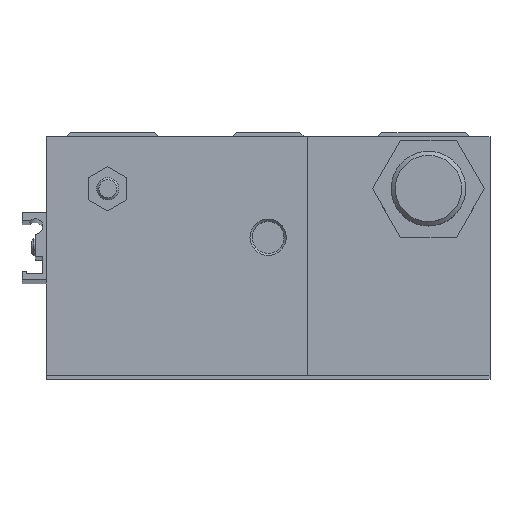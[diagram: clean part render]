
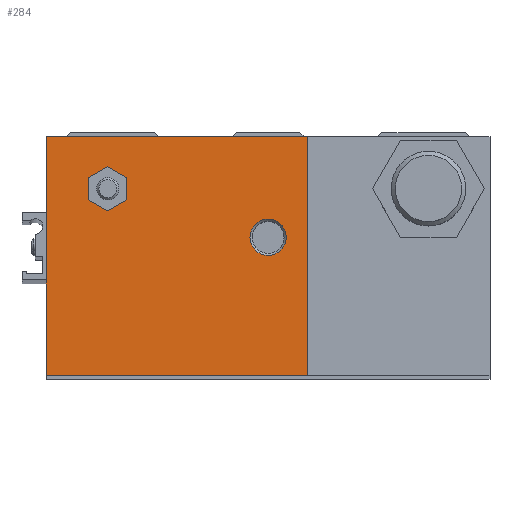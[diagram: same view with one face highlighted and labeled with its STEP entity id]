
A CAD part, top view. The second image highlights one B-rep face of the part: STEP entity #284.
In plain terms, the highlighted planar face has unit normal (0, 0, 1) as drawn and (0, 0, -1) by its records, which use the part's own axes.
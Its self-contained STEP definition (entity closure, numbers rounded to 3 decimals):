
#284 = ADVANCED_FACE( '', ( #726, #727, #728 ), #729, .F. );
#726 = FACE_BOUND( '', #1482, .T. );
#727 = FACE_BOUND( '', #1483, .T. );
#728 = FACE_OUTER_BOUND( '', #1484, .T. );
#729 = PLANE( '', #1485 );
#1482 = EDGE_LOOP( '', ( #2223, #2224, #2225, #2226, #2227, #2228 ) );
#1483 = EDGE_LOOP( '', ( #2229 ) );
#1484 = EDGE_LOOP( '', ( #2230, #2231, #2232, #2233 ) );
#1485 = AXIS2_PLACEMENT_3D( '', #2234, #2235, #2236 );
#2223 = ORIENTED_EDGE( '', *, *, #3686, .T. );
#2224 = ORIENTED_EDGE( '', *, *, #3687, .T. );
#2225 = ORIENTED_EDGE( '', *, *, #3688, .T. );
#2226 = ORIENTED_EDGE( '', *, *, #3689, .T. );
#2227 = ORIENTED_EDGE( '', *, *, #3690, .T. );
#2228 = ORIENTED_EDGE( '', *, *, #3691, .T. );
#2229 = ORIENTED_EDGE( '', *, *, #3692, .T. );
#2230 = ORIENTED_EDGE( '', *, *, #3693, .T. );
#2231 = ORIENTED_EDGE( '', *, *, #3694, .F. );
#2232 = ORIENTED_EDGE( '', *, *, #3695, .F. );
#2233 = ORIENTED_EDGE( '', *, *, #3696, .T. );
#2234 = CARTESIAN_POINT( '', ( 10.5, 64., -615.5 ) );
#2235 = DIRECTION( '', ( 0., 0., 1. ) );
#2236 = DIRECTION( '', ( 1., 0., 0. ) );
#3686 = EDGE_CURVE( '', #4218, #4219, #4220, .T. );
#3687 = EDGE_CURVE( '', #4219, #4221, #4222, .T. );
#3688 = EDGE_CURVE( '', #4221, #4223, #4224, .T. );
#3689 = EDGE_CURVE( '', #4223, #4225, #4226, .T. );
#3690 = EDGE_CURVE( '', #4225, #4227, #4228, .T. );
#3691 = EDGE_CURVE( '', #4227, #4218, #4229, .T. );
#3692 = EDGE_CURVE( '', #4230, #4230, #4231, .T. );
#3693 = EDGE_CURVE( '', #4232, #4233, #4234, .T. );
#3694 = EDGE_CURVE( '', #4235, #4233, #4236, .T. );
#3695 = EDGE_CURVE( '', #4237, #4235, #4238, .T. );
#3696 = EDGE_CURVE( '', #4237, #4232, #4239, .T. );
#4218 = VERTEX_POINT( '', #5014 );
#4219 = VERTEX_POINT( '', #5015 );
#4220 = LINE( '', #5016, #5017 );
#4221 = VERTEX_POINT( '', #5018 );
#4222 = LINE( '', #5019, #5020 );
#4223 = VERTEX_POINT( '', #5021 );
#4224 = LINE( '', #5022, #5023 );
#4225 = VERTEX_POINT( '', #5024 );
#4226 = LINE( '', #5025, #5026 );
#4227 = VERTEX_POINT( '', #5027 );
#4228 = LINE( '', #5028, #5029 );
#4229 = LINE( '', #5030, #5031 );
#4230 = VERTEX_POINT( '', #5032 );
#4231 = CIRCLE( '', #5033, 4.864 );
#4232 = VERTEX_POINT( '', #5034 );
#4233 = VERTEX_POINT( '', #5035 );
#4234 = LINE( '', #5036, #5037 );
#4235 = VERTEX_POINT( '', #5038 );
#4236 = LINE( '', #5039, #5040 );
#4237 = VERTEX_POINT( '', #5041 );
#4238 = LINE( '', #5042, #5043 );
#4239 = LINE( '', #5044, #5045 );
#5014 = CARTESIAN_POINT( '', ( -43., 19.947, -615.5 ) );
#5015 = CARTESIAN_POINT( '', ( -48.15, 16.973, -615.5 ) );
#5016 = CARTESIAN_POINT( '', ( 16.201, 54.126, -615.5 ) );
#5017 = VECTOR( '', #6006, 1000. );
#5018 = CARTESIAN_POINT( '', ( -48.15, 11.027, -615.5 ) );
#5019 = CARTESIAN_POINT( '', ( -48.15, 64., -615.5 ) );
#5020 = VECTOR( '', #6007, 1000. );
#5021 = CARTESIAN_POINT( '', ( -43., 8.053, -615.5 ) );
#5022 = CARTESIAN_POINT( '', ( -27.101, -1.126, -615.5 ) );
#5023 = VECTOR( '', #6008, 1000. );
#5024 = CARTESIAN_POINT( '', ( -37.85, 11.027, -615.5 ) );
#5025 = CARTESIAN_POINT( '', ( 21.351, 45.206, -615.5 ) );
#5026 = VECTOR( '', #6009, 1000. );
#5027 = CARTESIAN_POINT( '', ( -37.85, 16.973, -615.5 ) );
#5028 = CARTESIAN_POINT( '', ( -37.85, 64., -615.5 ) );
#5029 = VECTOR( '', #6010, 1000. );
#5030 = CARTESIAN_POINT( '', ( -21.951, 7.794, -615.5 ) );
#5031 = VECTOR( '', #6011, 1000. );
#5032 = CARTESIAN_POINT( '', ( 4.864, 27., -615.5 ) );
#5033 = AXIS2_PLACEMENT_3D( '', #6012, #6013, #6014 );
#5034 = CARTESIAN_POINT( '', ( 10.5, 0., -615.5 ) );
#5035 = CARTESIAN_POINT( '', ( -59.5, 0., -615.5 ) );
#5036 = CARTESIAN_POINT( '', ( 10.5, 0., -615.5 ) );
#5037 = VECTOR( '', #6015, 1000. );
#5038 = CARTESIAN_POINT( '', ( -59.5, 64., -615.5 ) );
#5039 = CARTESIAN_POINT( '', ( -59.5, 64., -615.5 ) );
#5040 = VECTOR( '', #6016, 1000. );
#5041 = CARTESIAN_POINT( '', ( 10.5, 64., -615.5 ) );
#5042 = CARTESIAN_POINT( '', ( 10.5, 64., -615.5 ) );
#5043 = VECTOR( '', #6017, 1000. );
#5044 = CARTESIAN_POINT( '', ( 10.5, 64., -615.5 ) );
#5045 = VECTOR( '', #6018, 1000. );
#6006 = DIRECTION( '', ( -0.866, -0.5, 0. ) );
#6007 = DIRECTION( '', ( 0., -1., 0. ) );
#6008 = DIRECTION( '', ( 0.866, -0.5, 0. ) );
#6009 = DIRECTION( '', ( 0.866, 0.5, 0. ) );
#6010 = DIRECTION( '', ( 0., 1., 0. ) );
#6011 = DIRECTION( '', ( -0.866, 0.5, 0. ) );
#6012 = CARTESIAN_POINT( '', ( 0., 27., -615.5 ) );
#6013 = DIRECTION( '', ( 0., 0., 1. ) );
#6014 = DIRECTION( '', ( 1., 0., 0. ) );
#6015 = DIRECTION( '', ( -1., 0., 0. ) );
#6016 = DIRECTION( '', ( 0., -1., 0. ) );
#6017 = DIRECTION( '', ( -1., 0., 0. ) );
#6018 = DIRECTION( '', ( 0., -1., 0. ) );
